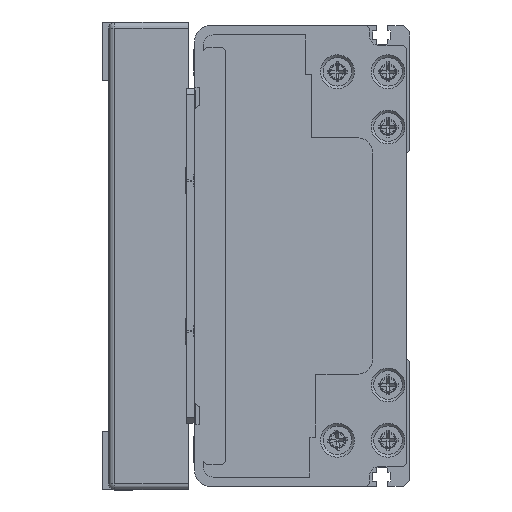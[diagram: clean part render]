
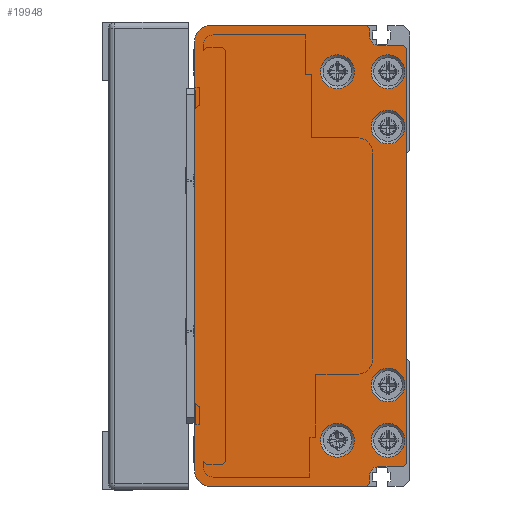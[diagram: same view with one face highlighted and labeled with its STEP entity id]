
A CAD part, left-side view. The second image highlights one B-rep face of the part: STEP entity #19948.
In plain terms, the highlighted planar face has unit normal (-1, 0, 0) as drawn and (0, 0, -1) by its records, which use the part's own axes.
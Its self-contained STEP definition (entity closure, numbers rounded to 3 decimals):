
#934=LINE('',#28882,#2599);
#935=LINE('',#28886,#2600);
#936=LINE('',#28888,#2601);
#937=LINE('',#28890,#2602);
#938=LINE('',#28894,#2603);
#939=LINE('',#28896,#2604);
#940=LINE('',#28898,#2605);
#941=LINE('',#28900,#2606);
#942=LINE('',#28902,#2607);
#943=LINE('',#28906,#2608);
#944=LINE('',#28908,#2609);
#945=LINE('',#28910,#2610);
#2599=VECTOR('',#23459,140.);
#2600=VECTOR('',#23462,51.);
#2601=VECTOR('',#23463,1.414);
#2602=VECTOR('',#23464,2.5);
#2603=VECTOR('',#23467,8.);
#2604=VECTOR('',#23468,1.414);
#2605=VECTOR('',#23469,135.);
#2606=VECTOR('',#23470,1.414);
#2607=VECTOR('',#23471,8.);
#2608=VECTOR('',#23474,2.5);
#2609=VECTOR('',#23475,1.414);
#2610=VECTOR('',#23476,51.);
#4217=PLANE('',#21330);
#4850=FACE_BOUND('',#6720,.T.);
#4851=FACE_BOUND('',#6721,.T.);
#4852=FACE_BOUND('',#6722,.T.);
#4853=FACE_BOUND('',#6723,.T.);
#4854=FACE_BOUND('',#6724,.T.);
#4855=FACE_BOUND('',#6725,.T.);
#5425=FACE_OUTER_BOUND('',#6719,.T.);
#6719=EDGE_LOOP('',(#14019,#14020,#14021,#14022,#14023,#14024,#14025,#14026,
#14027,#14028,#14029,#14030,#14031,#14032,#14033,#14034));
#6720=EDGE_LOOP('',(#14035));
#6721=EDGE_LOOP('',(#14036));
#6722=EDGE_LOOP('',(#14037));
#6723=EDGE_LOOP('',(#14038));
#6724=EDGE_LOOP('',(#14039));
#6725=EDGE_LOOP('',(#14040));
#8243=CIRCLE('',#21331,5.);
#8244=CIRCLE('',#21332,3.);
#8245=CIRCLE('',#21333,3.);
#8246=CIRCLE('',#21334,5.);
#8247=CIRCLE('',#21335,5.5);
#8248=CIRCLE('',#21336,5.5);
#8249=CIRCLE('',#21337,5.5);
#8250=CIRCLE('',#21338,5.5);
#8251=CIRCLE('',#21339,5.5);
#8252=CIRCLE('',#21340,5.5);
#8943=VERTEX_POINT('',#28880);
#8944=VERTEX_POINT('',#28881);
#8945=VERTEX_POINT('',#28883);
#8946=VERTEX_POINT('',#28885);
#8947=VERTEX_POINT('',#28887);
#8948=VERTEX_POINT('',#28889);
#8949=VERTEX_POINT('',#28891);
#8950=VERTEX_POINT('',#28893);
#8951=VERTEX_POINT('',#28895);
#8952=VERTEX_POINT('',#28897);
#8953=VERTEX_POINT('',#28899);
#8954=VERTEX_POINT('',#28901);
#8955=VERTEX_POINT('',#28903);
#8956=VERTEX_POINT('',#28905);
#8957=VERTEX_POINT('',#28907);
#8958=VERTEX_POINT('',#28909);
#8959=VERTEX_POINT('',#28912);
#8960=VERTEX_POINT('',#28914);
#8961=VERTEX_POINT('',#28916);
#8962=VERTEX_POINT('',#28918);
#8963=VERTEX_POINT('',#28920);
#8964=VERTEX_POINT('',#28922);
#10987=EDGE_CURVE('',#8943,#8944,#934,.T.);
#10988=EDGE_CURVE('',#8944,#8945,#8243,.T.);
#10989=EDGE_CURVE('',#8945,#8946,#935,.T.);
#10990=EDGE_CURVE('',#8946,#8947,#936,.T.);
#10991=EDGE_CURVE('',#8947,#8948,#937,.T.);
#10992=EDGE_CURVE('',#8948,#8949,#8244,.T.);
#10993=EDGE_CURVE('',#8949,#8950,#938,.T.);
#10994=EDGE_CURVE('',#8950,#8951,#939,.T.);
#10995=EDGE_CURVE('',#8951,#8952,#940,.T.);
#10996=EDGE_CURVE('',#8952,#8953,#941,.T.);
#10997=EDGE_CURVE('',#8953,#8954,#942,.T.);
#10998=EDGE_CURVE('',#8954,#8955,#8245,.T.);
#10999=EDGE_CURVE('',#8955,#8956,#943,.T.);
#11000=EDGE_CURVE('',#8956,#8957,#944,.T.);
#11001=EDGE_CURVE('',#8957,#8958,#945,.T.);
#11002=EDGE_CURVE('',#8958,#8943,#8246,.T.);
#11003=EDGE_CURVE('',#8959,#8959,#8247,.T.);
#11004=EDGE_CURVE('',#8960,#8960,#8248,.T.);
#11005=EDGE_CURVE('',#8961,#8961,#8249,.T.);
#11006=EDGE_CURVE('',#8962,#8962,#8250,.T.);
#11007=EDGE_CURVE('',#8963,#8963,#8251,.T.);
#11008=EDGE_CURVE('',#8964,#8964,#8252,.T.);
#14019=ORIENTED_EDGE('',*,*,#10987,.T.);
#14020=ORIENTED_EDGE('',*,*,#10988,.T.);
#14021=ORIENTED_EDGE('',*,*,#10989,.T.);
#14022=ORIENTED_EDGE('',*,*,#10990,.T.);
#14023=ORIENTED_EDGE('',*,*,#10991,.T.);
#14024=ORIENTED_EDGE('',*,*,#10992,.T.);
#14025=ORIENTED_EDGE('',*,*,#10993,.T.);
#14026=ORIENTED_EDGE('',*,*,#10994,.T.);
#14027=ORIENTED_EDGE('',*,*,#10995,.T.);
#14028=ORIENTED_EDGE('',*,*,#10996,.T.);
#14029=ORIENTED_EDGE('',*,*,#10997,.T.);
#14030=ORIENTED_EDGE('',*,*,#10998,.T.);
#14031=ORIENTED_EDGE('',*,*,#10999,.T.);
#14032=ORIENTED_EDGE('',*,*,#11000,.T.);
#14033=ORIENTED_EDGE('',*,*,#11001,.T.);
#14034=ORIENTED_EDGE('',*,*,#11002,.T.);
#14035=ORIENTED_EDGE('',*,*,#11003,.T.);
#14036=ORIENTED_EDGE('',*,*,#11004,.T.);
#14037=ORIENTED_EDGE('',*,*,#11005,.T.);
#14038=ORIENTED_EDGE('',*,*,#11006,.T.);
#14039=ORIENTED_EDGE('',*,*,#11007,.T.);
#14040=ORIENTED_EDGE('',*,*,#11008,.T.);
#19948=ADVANCED_FACE('',(#5425,#4850,#4851,#4852,#4853,#4854,#4855),#4217,
 .F.);
#21330=AXIS2_PLACEMENT_3D('',#28879,#23457,#23458);
#21331=AXIS2_PLACEMENT_3D('',#28884,#23460,#23461);
#21332=AXIS2_PLACEMENT_3D('',#28892,#23465,#23466);
#21333=AXIS2_PLACEMENT_3D('',#28904,#23472,#23473);
#21334=AXIS2_PLACEMENT_3D('',#28911,#23477,#23478);
#21335=AXIS2_PLACEMENT_3D('',#28913,#23479,#23480);
#21336=AXIS2_PLACEMENT_3D('',#28915,#23481,#23482);
#21337=AXIS2_PLACEMENT_3D('',#28917,#23483,#23484);
#21338=AXIS2_PLACEMENT_3D('',#28919,#23485,#23486);
#21339=AXIS2_PLACEMENT_3D('',#28921,#23487,#23488);
#21340=AXIS2_PLACEMENT_3D('',#28923,#23489,#23490);
#23457=DIRECTION('center_axis',(0.,0.,
1.));
#23458=DIRECTION('ref_axis',(1.,0.,0.));
#23459=DIRECTION('',(1.,0.,0.));
#23460=DIRECTION('center_axis',(0.,0.,
-1.));
#23461=DIRECTION('ref_axis',(-1.,0.,0.));
#23462=DIRECTION('',(0.,-1.,0.));
#23463=DIRECTION('',(-0.707,-0.707,0.));
#23464=DIRECTION('',(-1.,0.,0.));
#23465=DIRECTION('center_axis',(0.,0.,
1.));
#23466=DIRECTION('ref_axis',(0.,1.,0.));
#23467=DIRECTION('',(0.,-1.,0.));
#23468=DIRECTION('',(-0.707,-0.707,0.));
#23469=DIRECTION('',(-1.,0.,0.));
#23470=DIRECTION('',(-0.707,0.707,0.));
#23471=DIRECTION('',(0.,1.,0.));
#23472=DIRECTION('center_axis',(0.,0.,
1.));
#23473=DIRECTION('ref_axis',(1.,0.,0.));
#23474=DIRECTION('',(-1.,0.,0.));
#23475=DIRECTION('',(-0.707,0.707,0.));
#23476=DIRECTION('',(0.,1.,0.));
#23477=DIRECTION('center_axis',(0.,0.,
-1.));
#23478=DIRECTION('ref_axis',(0.,-1.,0.));
#23479=DIRECTION('center_axis',(0.,0.,
1.));
#23480=DIRECTION('ref_axis',(-1.,0.,0.));
#23481=DIRECTION('center_axis',(0.,0.,
1.));
#23482=DIRECTION('ref_axis',(-1.,0.,0.));
#23483=DIRECTION('center_axis',(0.,0.,
1.));
#23484=DIRECTION('ref_axis',(-1.,0.,0.));
#23485=DIRECTION('center_axis',(0.,0.,
1.));
#23486=DIRECTION('ref_axis',(-1.,0.,0.));
#23487=DIRECTION('center_axis',(0.,0.,
1.));
#23488=DIRECTION('ref_axis',(-1.,0.,0.));
#23489=DIRECTION('center_axis',(0.,0.,
1.));
#23490=DIRECTION('ref_axis',(-1.,0.,0.));
#28879=CARTESIAN_POINT('Origin',(0.25,38.047,-1569.));
#28880=CARTESIAN_POINT('',(-69.75,72.25,-1569.));
#28881=CARTESIAN_POINT('',(70.25,72.25,-1569.));
#28882=CARTESIAN_POINT('',(-69.75,72.25,-1569.));
#28883=CARTESIAN_POINT('',(75.25,67.25,-1569.));
#28884=CARTESIAN_POINT('Origin',(70.25,67.25,-1569.));
#28885=CARTESIAN_POINT('',(75.25,16.25,-1569.));
#28886=CARTESIAN_POINT('',(75.25,67.25,-1569.));
#28887=CARTESIAN_POINT('',(74.25,15.25,-1569.));
#28888=CARTESIAN_POINT('',(75.25,16.25,-1569.));
#28889=CARTESIAN_POINT('',(71.75,15.25,-1569.));
#28890=CARTESIAN_POINT('',(74.25,15.25,-1569.));
#28891=CARTESIAN_POINT('',(68.75,12.25,-1569.));
#28892=CARTESIAN_POINT('Origin',(71.75,12.25,-1569.));
#28893=CARTESIAN_POINT('',(68.75,4.25,-1569.));
#28894=CARTESIAN_POINT('',(68.75,12.25,-1569.));
#28895=CARTESIAN_POINT('',(67.75,3.25,-1569.));
#28896=CARTESIAN_POINT('',(68.75,4.25,-1569.));
#28897=CARTESIAN_POINT('',(-67.25,3.25,-1569.));
#28898=CARTESIAN_POINT('',(67.75,3.25,-1569.));
#28899=CARTESIAN_POINT('',(-68.25,4.25,-1569.));
#28900=CARTESIAN_POINT('',(-67.25,3.25,-1569.));
#28901=CARTESIAN_POINT('',(-68.25,12.25,-1569.));
#28902=CARTESIAN_POINT('',(-68.25,4.25,-1569.));
#28903=CARTESIAN_POINT('',(-71.25,15.25,-1569.));
#28904=CARTESIAN_POINT('Origin',(-71.25,12.25,-1569.));
#28905=CARTESIAN_POINT('',(-73.75,15.25,-1569.));
#28906=CARTESIAN_POINT('',(-71.25,15.25,-1569.));
#28907=CARTESIAN_POINT('',(-74.75,16.25,-1569.));
#28908=CARTESIAN_POINT('',(-73.75,15.25,-1569.));
#28909=CARTESIAN_POINT('',(-74.75,67.25,-1569.));
#28910=CARTESIAN_POINT('',(-74.75,16.25,-1569.));
#28911=CARTESIAN_POINT('Origin',(-69.75,67.25,-1569.));
#28912=CARTESIAN_POINT('',(-47.25,9.25,-1569.));
#28913=CARTESIAN_POINT('Origin',(-41.75,9.25,-1569.));
#28914=CARTESIAN_POINT('',(36.75,9.25,-1569.));
#28915=CARTESIAN_POINT('Origin',(42.25,9.25,-1569.));
#28916=CARTESIAN_POINT('',(-65.25,25.75,-1569.));
#28917=CARTESIAN_POINT('Origin',(-59.75,25.75,-1569.));
#28918=CARTESIAN_POINT('',(54.75,25.75,-1569.));
#28919=CARTESIAN_POINT('Origin',(60.25,25.75,-1569.));
#28920=CARTESIAN_POINT('',(-65.25,9.25,-1569.));
#28921=CARTESIAN_POINT('Origin',(-59.75,9.25,-1569.));
#28922=CARTESIAN_POINT('',(54.75,9.25,-1569.));
#28923=CARTESIAN_POINT('Origin',(60.25,9.25,-1569.));
